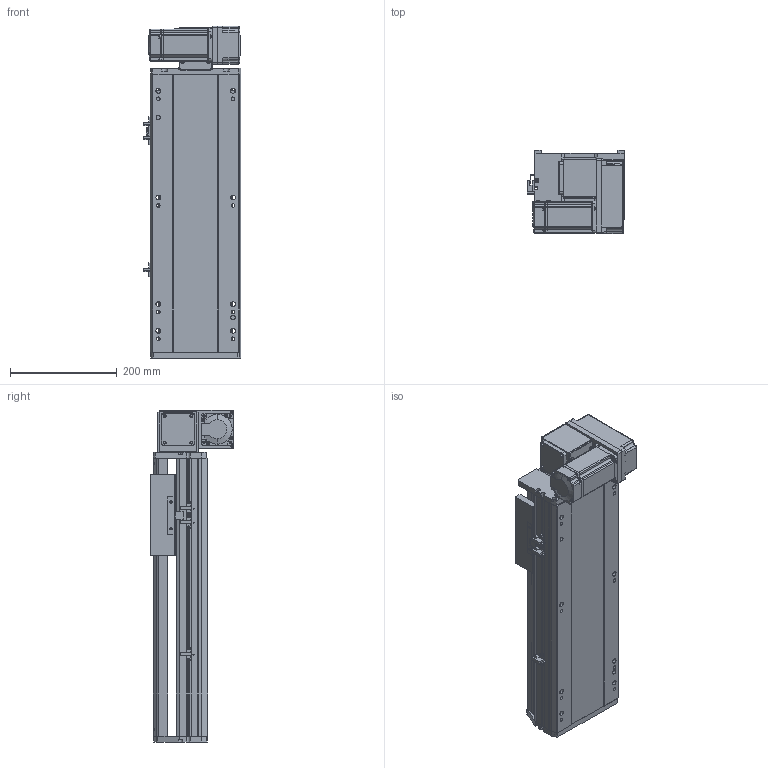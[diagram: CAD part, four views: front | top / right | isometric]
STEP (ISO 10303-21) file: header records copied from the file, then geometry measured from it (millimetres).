
FILE_DESCRIPTION (( 'STEP AP214' ), '1' );
FILE_NAME ('RTB17S-XX-250-RM-M40-C4.STEP', '2025-12-11T08:09:46', ( '' ), ( '' ), 'SwSTEP 2.0', 'SolidWorks 2018', '' );
FILE_SCHEMA (( 'AUTOMOTIVE_DESIGN' ));
Length unit declared in the file: millimetre
Products named in the file (14): OMRON EE-SX672 传感器^RTB17S-XX-XX-RM-M40-C4; RTB17S-RM-々湍釱蚾饜-400W^RTB17S-XX-XX-RM-M40-C4; RTB14-L-008-M20--萇儂啣^RTB17S-RM-々湍釱蚾饜-400W_RTB17S-XX-XX-RM-M40-C4; RTH13-BL-012覜茼え俋离^RTB17S-XX-XX-RM-M40-C4; RTB14-L-005P--轴承塑胶压盖^RTB17S-RM-皮带座装配-400W_RTB17S-XX-XX-RM-M40-C4; RTB17S-L-007奻裔^RTB17S-XX-XX-RM-M40-C4; RTB17S-XX-250-RM-M40-C4; RTB17S-L-014-T20--々湍釱^RTB17S-RM-々湍釱蚾饜-400W_RTB17S-XX-XX-RM-M40-C4; RTB14-L-017P^RTB17S-RM-々湍釱蚾饜-400W_RTB17S-XX-XX-RM-M40-C4; RTB14-L-018P^RTB17S-RM-々湍釱蚾饜-400W_RTB17S-XX-XX-RM-M40-C4; 400W侜督萇儂^RTB17S-XX-XX-RM-M40-C4; RTB17-R-011菁釱^RTB17S-XX-XX-RM-M40-C4; RTB17S-L-001耜醱啣^RTB17S-XX-XX-RM-M40-C4; RTB17S-L-004佪裝蹟譫蟀諉釱^RTB17S-XX-XX-RM-M40-C4
Assembly tree (16 placements, depth 3):
  RTB17S-XX-250-RM-M40-C4
    RTB17-R-011菁釱^RTB17S-XX-XX-RM-M40-C4
    RTB17S-L-007奻裔^RTB17S-XX-XX-RM-M40-C4
    OMRON EE-SX672 传感器^RTB17S-XX-XX-RM-M40-C4  x3
    RTB17S-L-001耜醱啣^RTB17S-XX-XX-RM-M40-C4
    400W侜督萇儂^RTB17S-XX-XX-RM-M40-C4
    RTB17S-L-004佪裝蹟譫蟀諉釱^RTB17S-XX-XX-RM-M40-C4
    RTH13-BL-012覜茼え俋离^RTB17S-XX-XX-RM-M40-C4
    RTB17S-RM-々湍釱蚾饜-400W^RTB17S-XX-XX-RM-M40-C4
      RTB17S-L-014-T20--々湍釱^RTB17S-RM-々湍釱蚾饜-400W_RTB17S-XX-XX-RM-M40-C4
      RTB14-L-005P--轴承塑胶压盖^RTB17S-RM-皮带座装配-400W_RTB17S-XX-XX-RM-M40-C4
      RTB14-L-008-M20--萇儂啣^RTB17S-RM-々湍釱蚾饜-400W_RTB17S-XX-XX-RM-M40-C4
      RTB14-L-017P^RTB17S-RM-々湍釱蚾饜-400W_RTB17S-XX-XX-RM-M40-C4  x2
      RTB14-L-018P^RTB17S-RM-々湍釱蚾饜-400W_RTB17S-XX-XX-RM-M40-C4
Bounding box: 183.5 x 156.5 x 622.5 mm (x, y, z)
Volume: 6252946.2 mm3; surface area: 832894.9 mm2
Topology: 15 solids, 15 shells, 2157 faces, 5925 edges, 3861 vertices
Faces by surface type: plane 1062, cylinder 647, bspline 301, cone 139, torus 8
Entity records: 60329 total; most frequent: CARTESIAN_POINT 16730, ORIENTED_EDGE 8694, DIRECTION 8126, EDGE_CURVE 4347, VERTEX_POINT 2849, AXIS2_PLACEMENT_3D 2779, VECTOR 2568, LINE 2568
